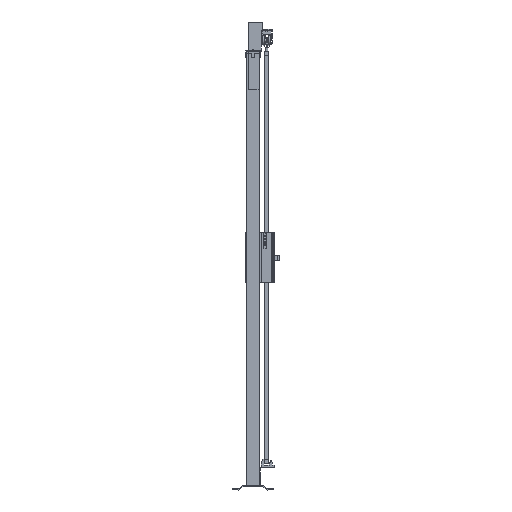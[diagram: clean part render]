
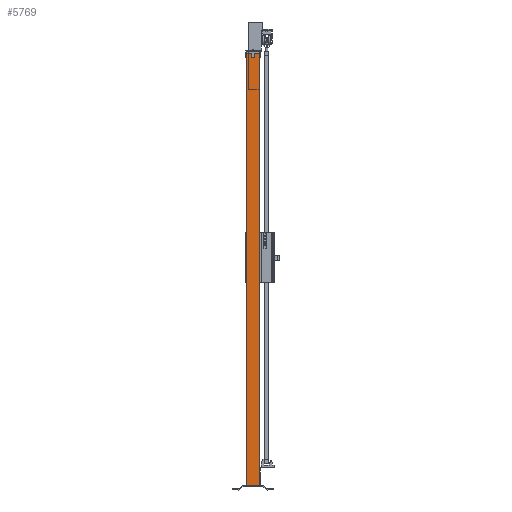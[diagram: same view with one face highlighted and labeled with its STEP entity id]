
A CAD part, left-side view. The second image highlights one B-rep face of the part: STEP entity #5769.
In plain terms, the highlighted planar face has unit normal (-1, 0, 0).
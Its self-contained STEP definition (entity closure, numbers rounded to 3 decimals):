
#516=FACE_OUTER_BOUND('',#931,.T.);
#931=EDGE_LOOP('',(#3589,#3590,#3591,#3592));
#1403=VERTEX_POINT('',#12049);
#1404=VERTEX_POINT('',#12051);
#1407=VERTEX_POINT('',#12058);
#1408=VERTEX_POINT('',#12060);
#2257=EDGE_CURVE('',#1403,#1404,#6669,.T.);
#2261=EDGE_CURVE('',#1407,#1408,#6673,.T.);
#2263=EDGE_CURVE('',#1404,#1407,#6675,.T.);
#2265=EDGE_CURVE('',#1403,#1408,#6677,.T.);
#3589=ORIENTED_EDGE('',*,*,#2265,.T.);
#3590=ORIENTED_EDGE('',*,*,#2261,.F.);
#3591=ORIENTED_EDGE('',*,*,#2263,.F.);
#3592=ORIENTED_EDGE('',*,*,#2257,.F.);
#5395=PLANE('',#8638);
#5769=ADVANCED_FACE('',(#516),#5395,.F.);
#6669=LINE('',#12052,#7734);
#6673=LINE('',#12061,#7738);
#6675=LINE('',#12064,#7740);
#6677=LINE('',#12067,#7742);
#7734=VECTOR('',#9588,1.);
#7738=VECTOR('',#9594,1.);
#7740=VECTOR('',#9598,1.);
#7742=VECTOR('',#9602,1.);
#8638=AXIS2_PLACEMENT_3D('',#12066,#9600,#9601);
#9588=DIRECTION('',(0.,-1.,0.));
#9594=DIRECTION('',(0.,1.,0.));
#9598=DIRECTION('',(0.,0.,-1.));
#9600=DIRECTION('center_axis',(1.,0.,0.));
#9601=DIRECTION('ref_axis',(0.,0.,-1.));
#9602=DIRECTION('',(0.,0.,-1.));
#12049=CARTESIAN_POINT('',(-30.,30.,2020.));
#12051=CARTESIAN_POINT('',(-30.,-30.,2020.));
#12052=CARTESIAN_POINT('',(-30.,0.,2020.));
#12058=CARTESIAN_POINT('',(-30.,-30.,20.));
#12060=CARTESIAN_POINT('',(-30.,30.,20.));
#12061=CARTESIAN_POINT('',(-30.,0.,20.));
#12064=CARTESIAN_POINT('',(-30.,-30.,1020.));
#12066=CARTESIAN_POINT('Origin',(-30.,0.,
1020.));
#12067=CARTESIAN_POINT('',(-30.,30.,1020.));
